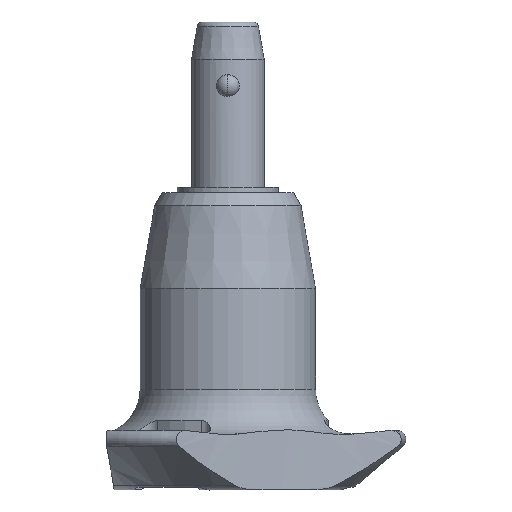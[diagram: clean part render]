
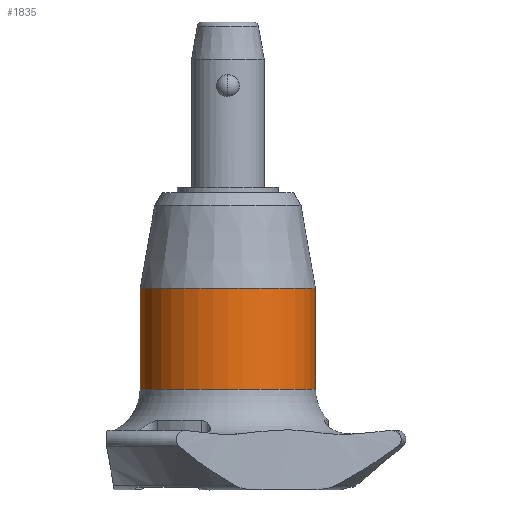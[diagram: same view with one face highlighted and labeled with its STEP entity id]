
A CAD part, front view. The second image highlights one B-rep face of the part: STEP entity #1835.
In plain terms, the highlighted cylindrical face has radius 9.65 mm (diameter 19.3 mm), a partial arc.
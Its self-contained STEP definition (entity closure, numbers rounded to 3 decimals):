
#126 = VECTOR ( 'NONE', #246, 1000. ) ;
#131 = DIRECTION ( 'NONE',  ( 0., 0., -1. ) ) ;
#156 = ORIENTED_EDGE ( 'NONE', *, *, #2481, .F. ) ;
#199 = CARTESIAN_POINT ( 'NONE',  ( -9.65, 0., -32.2 ) ) ;
#210 = VERTEX_POINT ( 'NONE', #320 ) ;
#227 = VERTEX_POINT ( 'NONE', #1206 ) ;
#231 = CARTESIAN_POINT ( 'NONE',  ( 9.65, 0., -32.2 ) ) ;
#246 = DIRECTION ( 'NONE',  ( 0., 0., -1. ) ) ;
#315 = CYLINDRICAL_SURFACE ( 'NONE', #703, 9.65 ) ;
#320 = CARTESIAN_POINT ( 'NONE',  ( 9.65, 0., -21.1 ) ) ;
#345 = CIRCLE ( 'NONE', #1321, 9.65 ) ;
#397 = VERTEX_POINT ( 'NONE', #1997 ) ;
#412 = DIRECTION ( 'NONE',  ( 0., 0., -1. ) ) ;
#703 = AXIS2_PLACEMENT_3D ( 'NONE', #1167, #1798, #1355 ) ;
#1074 = EDGE_LOOP ( 'NONE', ( #2483, #1962, #1297, #156 ) ) ;
#1085 = LINE ( 'NONE', #199, #2340 ) ;
#1138 = FACE_OUTER_BOUND ( 'NONE', #1074, .T. ) ;
#1167 = CARTESIAN_POINT ( 'NONE',  ( 0., 0., -32.2 ) ) ;
#1206 = CARTESIAN_POINT ( 'NONE',  ( -9.65, 0., -21.1 ) ) ;
#1239 = CARTESIAN_POINT ( 'NONE',  ( 0., 0., -32.2 ) ) ;
#1240 = DIRECTION ( 'NONE',  ( -1., 0., 0. ) ) ;
#1295 = LINE ( 'NONE', #231, #126 ) ;
#1297 = ORIENTED_EDGE ( 'NONE', *, *, #2563, .T. ) ;
#1321 = AXIS2_PLACEMENT_3D ( 'NONE', #1442, #2512, #1240 ) ;
#1355 = DIRECTION ( 'NONE',  ( -1., 0., 0. ) ) ;
#1442 = CARTESIAN_POINT ( 'NONE',  ( 0., 0., -21.1 ) ) ;
#1798 = DIRECTION ( 'NONE',  ( 0., 0., -1. ) ) ;
#1824 = DIRECTION ( 'NONE',  ( -1., 0., 0. ) ) ;
#1835 = ADVANCED_FACE ( 'NONE', ( #1138 ), #315, .T. ) ;
#1874 = VERTEX_POINT ( 'NONE', #2678 ) ;
#1953 = EDGE_CURVE ( 'NONE', #210, #227, #345, .T. ) ;
#1962 = ORIENTED_EDGE ( 'NONE', *, *, #1953, .T. ) ;
#1997 = CARTESIAN_POINT ( 'NONE',  ( 9.65, 0., -32.2 ) ) ;
#2219 = CIRCLE ( 'NONE', #2656, 9.65 ) ;
#2340 = VECTOR ( 'NONE', #412, 1000. ) ;
#2481 = EDGE_CURVE ( 'NONE', #397, #1874, #2219, .T. ) ;
#2483 = ORIENTED_EDGE ( 'NONE', *, *, #2668, .F. ) ;
#2512 = DIRECTION ( 'NONE',  ( 0., 0., -1. ) ) ;
#2563 = EDGE_CURVE ( 'NONE', #227, #1874, #1085, .T. ) ;
#2656 = AXIS2_PLACEMENT_3D ( 'NONE', #1239, #131, #1824 ) ;
#2668 = EDGE_CURVE ( 'NONE', #210, #397, #1295, .T. ) ;
#2678 = CARTESIAN_POINT ( 'NONE',  ( -9.65, 0., -32.2 ) ) ;
